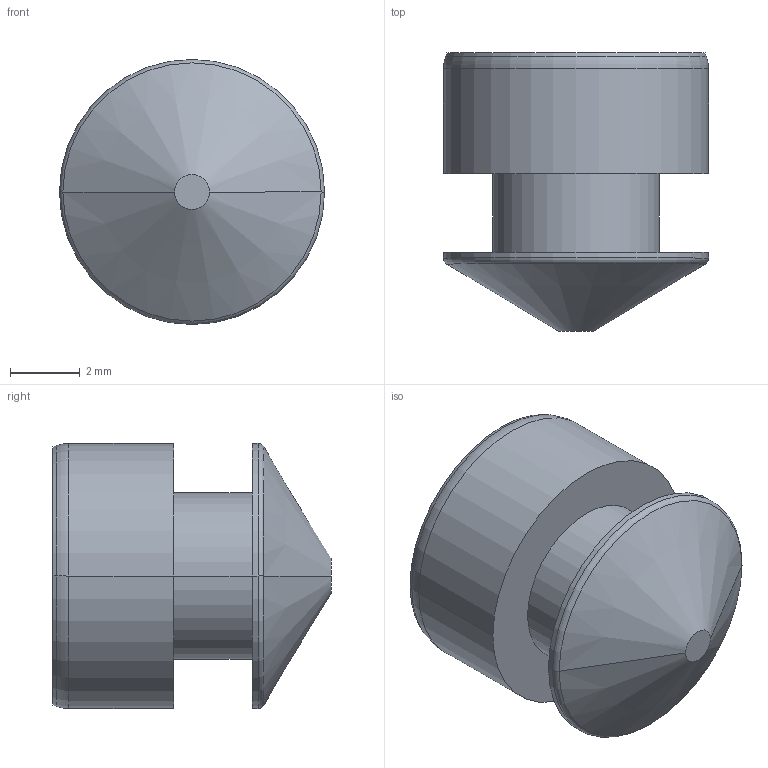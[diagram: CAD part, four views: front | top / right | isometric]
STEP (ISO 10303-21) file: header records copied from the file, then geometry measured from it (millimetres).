
FILE_DESCRIPTION (( 'STEP AP214' ), '1' );
FILE_NAME ('010401_LnG_plunger_rA.STEP', '2023-01-26T18:10:17', ( '' ), ( '' ), 'SwSTEP 2.0', 'SolidWorks 2019', '' );
FILE_SCHEMA (( 'AUTOMOTIVE_DESIGN' ));
Length unit declared in the file: millimetre
Products named in the file (1): 010401_LnG_plunger_rA
Bounding box: 7.62 x 8 x 7.62 mm (x, y, z)
Volume: 246.2 mm3; surface area: 274.9 mm2
Topology: 1 solids, 1 shells, 18 faces, 34 edges, 20 vertices
Faces by surface type: cylinder 6, torus 4, cone 4, plane 4
Entity records: 492 total; most frequent: DIRECTION 96, CARTESIAN_POINT 73, ORIENTED_EDGE 68, AXIS2_PLACEMENT_3D 43, EDGE_CURVE 34, CIRCLE 24, VERTEX_POINT 20, EDGE_LOOP 20
